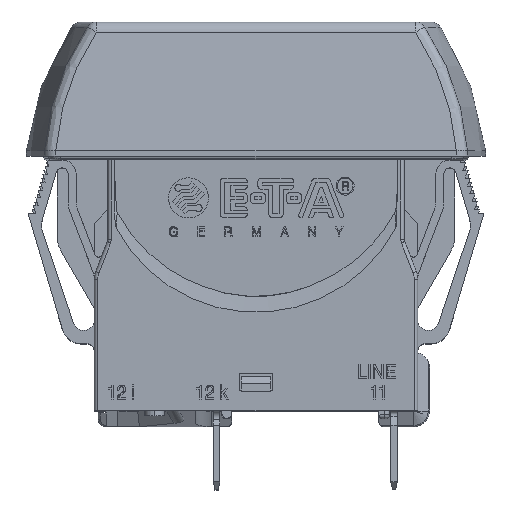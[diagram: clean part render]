
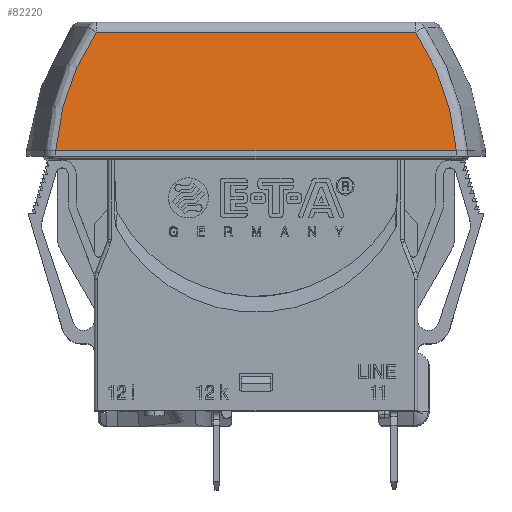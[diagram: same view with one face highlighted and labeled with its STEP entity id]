
A CAD part, top view. The second image highlights one B-rep face of the part: STEP entity #82220.
In plain terms, the highlighted planar face has unit normal (0, 0.113, 0.994).
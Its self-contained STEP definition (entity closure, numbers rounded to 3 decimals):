
#30808=DIRECTION('',(1.,0.,0.));
#30809=VECTOR('',#30808,40.455);
#30810=CARTESIAN_POINT('',(-20.228,47.97,
12.894));
#30811=LINE('',#30810,#30809);
#30812=CARTESIAN_POINT('',(25.395,33.,14.6));
#30813=CARTESIAN_POINT('',(25.362,33.439,14.55));
#30814=CARTESIAN_POINT('',(25.277,34.315,14.45));
#30815=CARTESIAN_POINT('',(25.094,35.621,14.301));
#30816=CARTESIAN_POINT('',(24.856,36.919,14.153));
#30817=CARTESIAN_POINT('',(24.563,38.206,14.007));
#30818=CARTESIAN_POINT('',(24.216,39.479,13.862));
#30819=CARTESIAN_POINT('',(23.815,40.737,13.718));
#30820=CARTESIAN_POINT('',(23.361,41.977,13.577));
#30821=CARTESIAN_POINT('',(22.855,43.198,13.438));
#30822=CARTESIAN_POINT('',(22.299,44.392,13.302));
#30823=CARTESIAN_POINT('',(21.691,45.568,13.168));
#30824=CARTESIAN_POINT('',(21.006,46.764,13.032));
#30825=CARTESIAN_POINT('',(20.496,47.567,12.94));
#30826=CARTESIAN_POINT('',(20.228,47.97,12.894));
#30828=CARTESIAN_POINT('',(25.388,33.,14.6));
#30829=CARTESIAN_POINT('',(25.39,33.,14.6));
#30830=CARTESIAN_POINT('',(25.393,33.,14.6));
#30831=CARTESIAN_POINT('',(25.395,33.,14.6));
#30833=DIRECTION('',(-1.,0.,0.));
#30834=VECTOR('',#30833,50.776);
#30835=CARTESIAN_POINT('',(25.388,33.,14.6));
#30836=LINE('',#30835,#30834);
#30837=CARTESIAN_POINT('',(-25.395,33.,
14.6));
#30838=CARTESIAN_POINT('',(-25.393,33.,
14.6));
#30839=CARTESIAN_POINT('',(-25.39,33.,14.6));
#30840=CARTESIAN_POINT('',(-25.388,33.,14.6));
#30842=CARTESIAN_POINT('',(-20.228,47.97,
12.894));
#30843=CARTESIAN_POINT('',(-20.471,47.605,
12.936));
#30844=CARTESIAN_POINT('',(-20.943,46.865,
13.02));
#30845=CARTESIAN_POINT('',(-21.604,45.725,
13.15));
#30846=CARTESIAN_POINT('',(-22.216,44.56,
13.283));
#30847=CARTESIAN_POINT('',(-22.778,43.37,
13.418));
#30848=CARTESIAN_POINT('',(-23.289,42.158,
13.557));
#30849=CARTESIAN_POINT('',(-23.749,40.926,
13.697));
#30850=CARTESIAN_POINT('',(-24.157,39.676,
13.839));
#30851=CARTESIAN_POINT('',(-24.511,38.41,
13.984));
#30852=CARTESIAN_POINT('',(-24.811,37.134,
14.129));
#30853=CARTESIAN_POINT('',(-25.061,35.822,
14.278));
#30854=CARTESIAN_POINT('',(-25.264,34.43,
14.437));
#30855=CARTESIAN_POINT('',(-25.358,33.482,
14.545));
#30856=CARTESIAN_POINT('',(-25.395,33.,
14.6));
#31789=CARTESIAN_POINT('',(-25.388,33.,14.6));
#31790=VERTEX_POINT('',#31789);
#31795=CARTESIAN_POINT('',(25.388,33.,14.6));
#31796=VERTEX_POINT('',#31795);
#31801=VERTEX_POINT('',#30837);
#31802=VERTEX_POINT('',#30831);
#31819=CARTESIAN_POINT('',(20.228,47.97,12.894));
#31820=VERTEX_POINT('',#31819);
#31825=CARTESIAN_POINT('',(-20.228,47.97,
12.894));
#31826=VERTEX_POINT('',#31825);
#82206=CARTESIAN_POINT('',(-28.677,33.,14.6));
#82207=DIRECTION('',(0.,0.113,0.994));
#82208=DIRECTION('',(1.,0.,0.));
#82209=AXIS2_PLACEMENT_3D('',#82206,#82207,#82208);
#82210=PLANE('',#82209);
#82211=ORIENTED_EDGE('',*,*,#82199,.T.);
#82212=ORIENTED_EDGE('',*,*,#82175,.F.);
#82213=ORIENTED_EDGE('',*,*,#81849,.F.);
#82214=ORIENTED_EDGE('',*,*,#81866,.T.);
#82215=ORIENTED_EDGE('',*,*,#81885,.F.);
#82217=ORIENTED_EDGE('',*,*,#82216,.F.);
#82218=EDGE_LOOP('',(#82211,#82212,#82213,#82214,#82215,#82217));
#82219=FACE_OUTER_BOUND('',#82218,.F.);
#30827=B_SPLINE_CURVE_WITH_KNOTS('',3,(#30812,#30813,#30814,#30815,#30816,
#30817,#30818,#30819,#30820,#30821,#30822,#30823,#30824,#30825,#30826),
.UNSPECIFIED.,.F.,.F.,(4,1,1,1,1,1,1,1,1,1,1,1,4),(0.,0.083,
0.167,0.25,0.333,0.417,0.5,
0.583,0.667,0.75,0.833,0.917,
1.),.UNSPECIFIED.);
#30832=B_SPLINE_CURVE_WITH_KNOTS('',3,(#30828,#30829,#30830,#30831),
.UNSPECIFIED.,.F.,.F.,(4,4),(0.,1.),.UNSPECIFIED.);
#30841=B_SPLINE_CURVE_WITH_KNOTS('',3,(#30837,#30838,#30839,#30840),
.UNSPECIFIED.,.F.,.F.,(4,4),(0.,1.),.UNSPECIFIED.);
#30857=B_SPLINE_CURVE_WITH_KNOTS('',3,(#30842,#30843,#30844,#30845,#30846,
#30847,#30848,#30849,#30850,#30851,#30852,#30853,#30854,#30855,#30856),
.UNSPECIFIED.,.F.,.F.,(4,1,1,1,1,1,1,1,1,1,1,1,4),(0.,0.083,
0.167,0.25,0.333,0.417,0.5,
0.583,0.667,0.75,0.833,0.917,
1.),.UNSPECIFIED.);
#81849=EDGE_CURVE('',#31796,#31802,#30832,.T.);
#81866=EDGE_CURVE('',#31796,#31790,#30836,.T.);
#81885=EDGE_CURVE('',#31801,#31790,#30841,.T.);
#82175=EDGE_CURVE('',#31802,#31820,#30827,.T.);
#82199=EDGE_CURVE('',#31826,#31820,#30811,.T.);
#82216=EDGE_CURVE('',#31826,#31801,#30857,.T.);
#82220=ADVANCED_FACE('',(#82219),#82210,.T.);
